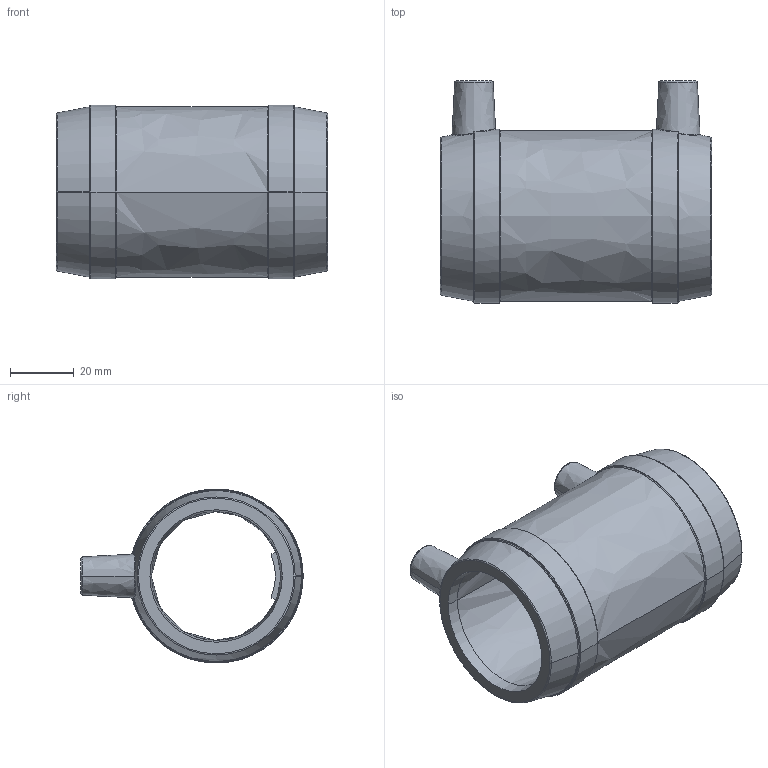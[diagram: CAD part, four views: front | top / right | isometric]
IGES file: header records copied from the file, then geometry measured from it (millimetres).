
Start section:  PTC IGES file: mb_d040_01.igs
Global section: file name: mb_d040_01.igs; native system: Pro/ENGINEER by Parametric Technology Corporation; preprocessor: 2011490; author: mtunjic; organization: Unknown; date: 20130805.164221; units: millimetre
Bounding box: 85 x 69.65 x 54.5 mm (x, y, z)
Surface area: 27795.8 mm2 (no closed solid volume)
Topology: 0 solids, 0 shells, 190 faces, 946 edges, 946 vertices
Faces by surface type: bspline 190
